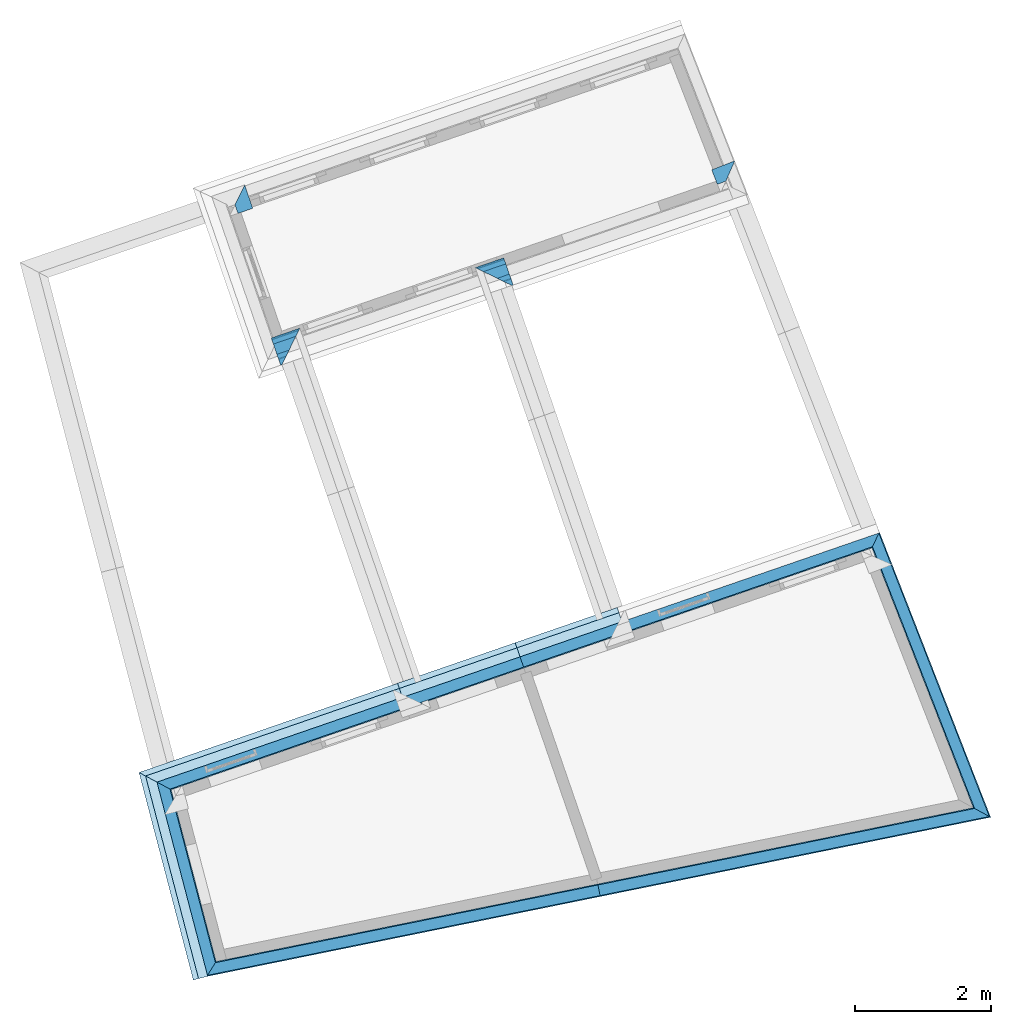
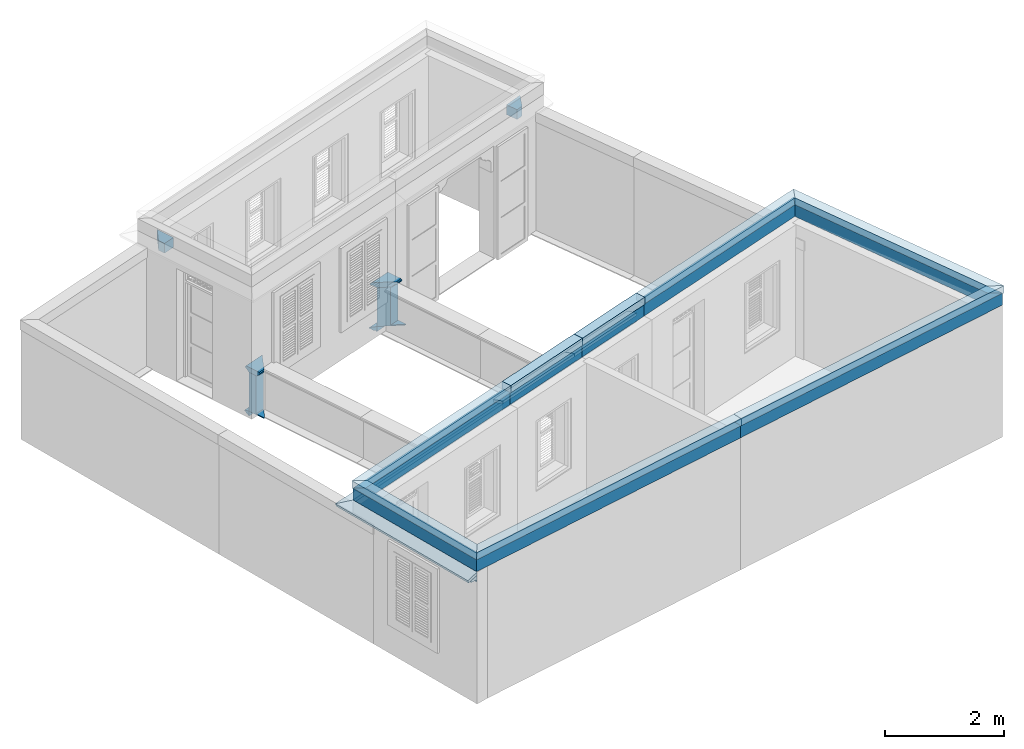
# One storey, part 15 of 16: 24 roofs, 8 walls.
"""IFC4 building model written with IfcOpenShell, lengths in metres."""

from ifc_helpers import new_model, si_unit, frame, origin_with_axes, place, context, subcontext, project, spatial, polyline, outline, extrude, clip, halfspace, material_profile, profile_set, profile_usage, type_object, element, save


model = new_model("IFC4")

# Units and contexts
model_context = context("Model", 3, world=origin_with_axes())
body_context = subcontext(model_context, "Body", "Model", "MODEL_VIEW")
ifc_project = project(units=[si_unit("PLANEANGLEUNIT", "RADIAN"), si_unit("MASSUNIT", "GRAM", prefix="KILO"), si_unit("FORCEUNIT", "NEWTON", prefix="KILO"), si_unit("LENGTHUNIT", "METRE"), si_unit("AREAUNIT", "SQUARE_METRE"), si_unit("VOLUMEUNIT", "CUBIC_METRE")], contexts=[model_context, model_context])

# Site, building, storey
site_placement = place(None, origin_with_axes())
site = spatial("IfcSite", under=ifc_project, at=site_placement, Name="Site plot-8", CompositionType="ELEMENT")
building_placement = place(None, origin_with_axes())
building = spatial("IfcBuilding", under=site, at=building_placement, Name="Building plot-8", CompositionType="ELEMENT")
storey_placement = place(None, frame((0.0, 0.0, 3.0), z_axis=(0.0, 0.0, 1.0), x_axis=(1.0, 0.0, 0.0)))
storey = spatial("IfcBuildingStorey", under=building, at=storey_placement, Name="plot-8 1", CompositionType="ELEMENT", Elevation=3.0)

# Walls
ifc_material_profile_1 = material_profile(None, outline(polyline([(0.265, 2.245), (0.265, 2.445), (0.035, 2.445), (0.035, 2.245), (0.265, 2.245)])))
ifc_profile_set_1 = profile_set([ifc_material_profile_1])
ifc_profile_usage_1 = profile_usage(ifc_profile_set_1)
wall_type_1 = type_object("IfcWallType", Name="parapet street_1", PredefinedType="PARAPET", material=ifc_profile_set_1)
wall_1_placement = place(storey_placement, frame((-12.5891238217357, 23.4297082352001, 0.0), z_axis=(0.326112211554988, -0.945331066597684, 0.0), x_axis=(0.945331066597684, 0.326112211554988, 0.0)))
element("IfcWall", 1, at=wall_1_placement, inside=storey, type_object=wall_type_1, material=ifc_profile_usage_1, Name="parapet street_1", context=body_context, shape_type="Clipping", body=[
    clip(clip(extrude(outline(polyline([(0.265, 2.245), (0.265, 2.445), (0.035, 2.445), (0.035, 2.245), (0.265, 2.245)])), origin_with_axes(), (0.0, 0.0, 1.0), 2.1), halfspace(frame((0.0, 0.0, 1.1), z_axis=(-5.0532154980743e-16, 0.0, -1.0), x_axis=(0.0, 1.0, 0.0)), True)), halfspace(frame((0.0, 0.0, 1.0), z_axis=(-0.707106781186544, 0.0, -0.707106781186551), x_axis=(0.0, 1.0, 0.0)), False)),
])
ifc_material_profile_2 = material_profile(None, outline(polyline([(0.265, 2.245), (0.265, 2.445), (0.035, 2.445), (0.035, 2.245), (0.265, 2.245)])))
ifc_profile_set_2 = profile_set([ifc_material_profile_2])
ifc_profile_usage_2 = profile_usage(ifc_profile_set_2)
wall_type_2 = type_object("IfcWallType", Name="parapet party_1", PredefinedType="PARAPET", material=ifc_profile_set_2)
wall_2_placement = place(storey_placement, frame((-6.04906734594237, 22.4333467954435, 0.0), z_axis=(0.931656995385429, 0.363339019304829, 0.0), x_axis=(-0.363339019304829, 0.931656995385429, 0.0)))
element("IfcWall", 2, at=wall_2_placement, inside=storey, type_object=wall_type_2, material=ifc_profile_usage_2, Name="parapet party_1", context=body_context, shape_type="Clipping", body=[
    clip(clip(extrude(outline(polyline([(0.265, 2.245), (0.265, 2.445), (0.035, 2.445), (0.035, 2.245), (0.265, 2.245)])), origin_with_axes(), (0.0, 0.0, 1.0), 2.1), halfspace(frame((0.0, 0.0, 1.1), z_axis=(0.707106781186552, 0.0, -0.707106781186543), x_axis=(0.0, 1.0, 0.0)), True)), halfspace(frame((0.0, 0.0, 1.0), z_axis=(-6.12323399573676e-17, 0.0, -1.0), x_axis=(0.0, 1.0, 0.0)), False)),
])
ifc_material_profile_3 = material_profile(None, outline(polyline([(0.25, 0.0), (0.25, 0.795), (0.09, 0.795), (0.09, 0.02), (-0.08, 0.02), (-0.08, 0.0), (0.25, 0.0)])))
ifc_profile_set_3 = profile_set([ifc_material_profile_3])
ifc_profile_usage_3 = profile_usage(ifc_profile_set_3)
wall_type_3 = type_object("IfcWallType", Name="parapet internal_0", PredefinedType="PARAPET", material=ifc_profile_set_3)
wall_3_placement = place(storey_placement, frame((-12.5394250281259, 19.9125697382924, 0.0), z_axis=(0.945331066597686, 0.326112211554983, 0.0), x_axis=(-0.326112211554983, 0.945331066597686, 0.0)))
element("IfcWall", 3, at=wall_3_placement, inside=storey, type_object=wall_type_3, material=ifc_profile_usage_3, Name="parapet internal_0", context=body_context, shape_type="Clipping", body=[
    clip(clip(extrude(outline(polyline([(0.25, 0.0), (0.25, 0.795), (0.09, 0.795), (0.09, 0.02), (-0.08, 0.02), (-0.08, 0.0), (0.25, 0.0)])), origin_with_axes(), (0.0, 0.0, 1.0), 2.1), halfspace(frame((0.0, 0.0, 1.1), z_axis=(0.707106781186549, 0.0, -0.707106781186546), x_axis=(0.0, 1.0, 0.0)), True)), halfspace(frame((0.0, 0.0, 1.0), z_axis=(-5.0532154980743e-16, 0.0, -1.0), x_axis=(0.0, 1.0, 0.0)), False)),
])
ifc_material_profile_4 = material_profile(None, outline(polyline([(0.265, 0.795), (0.268, 0.807), (0.274, 0.816), (0.283, 0.822), (0.295, 0.825), (0.295, 0.84), (0.305, 0.84), (0.317, 0.842), (0.326, 0.849), (0.333, 0.858), (0.335, 0.87), (0.333, 0.882), (0.326, 0.891), (0.317, 0.898), (0.305, 0.9), (0.035, 0.9), (0.023, 0.898), (0.014, 0.891), (0.007, 0.882), (0.005, 0.87), (0.007, 0.858), (0.014, 0.849), (0.023, 0.842), (0.035, 0.84), (0.045, 0.84), (0.045, 0.825), (0.057, 0.822), (0.066, 0.816), (0.072, 0.807), (0.075, 0.795), (0.265, 0.795)])))
ifc_profile_set_4 = profile_set([ifc_material_profile_4])
ifc_profile_usage_4 = profile_usage(ifc_profile_set_4)
wall_type_4 = type_object("IfcWallType", Name="parapet internal_1", PredefinedType="PARAPET", material=ifc_profile_set_4)
wall_4_placement = place(storey_placement, frame((-12.5394250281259, 19.9125697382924, 0.0), z_axis=(0.945331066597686, 0.326112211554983, 0.0), x_axis=(-0.326112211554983, 0.945331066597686, 0.0)))
element("IfcWall", 4, at=wall_4_placement, inside=storey, type_object=wall_type_4, material=ifc_profile_usage_4, Name="parapet internal_1", context=body_context, shape_type="Clipping", body=[
    clip(clip(extrude(outline(polyline([(0.265, 0.795), (0.268, 0.807), (0.274, 0.816), (0.283, 0.822), (0.295, 0.825), (0.295, 0.84), (0.305, 0.84), (0.317, 0.842), (0.326, 0.849), (0.333, 0.858), (0.335, 0.87), (0.333, 0.882), (0.326, 0.891), (0.317, 0.898), (0.305, 0.9), (0.035, 0.9), (0.023, 0.898), (0.014, 0.891), (0.007, 0.882), (0.005, 0.87), (0.007, 0.858), (0.014, 0.849), (0.023, 0.842), (0.035, 0.84), (0.045, 0.84), (0.045, 0.825), (0.057, 0.822), (0.066, 0.816), (0.072, 0.807), (0.075, 0.795), (0.265, 0.795)])), origin_with_axes(), (0.0, 0.0, 1.0), 2.1), halfspace(frame((0.0, 0.0, 1.1), z_axis=(0.707106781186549, 0.0, -0.707106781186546), x_axis=(0.0, 1.0, 0.0)), True)), halfspace(frame((0.0, 0.0, 1.0), z_axis=(-5.0532154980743e-16, 0.0, -1.0), x_axis=(0.0, 1.0, 0.0)), False)),
])
ifc_material_profile_5 = material_profile(None, outline(polyline([(0.25, -0.1), (0.265, -0.1), (0.265, -0.085), (0.278, -0.084), (0.289, -0.081), (0.301, -0.074), (0.309, -0.065), (0.315, -0.055), (0.324, -0.044), (0.334, -0.038), (0.345, -0.035), (0.345, -0.015), (0.25, 0.0), (0.25, -0.1)])))
ifc_profile_set_5 = profile_set([ifc_material_profile_5])
ifc_profile_usage_5 = profile_usage(ifc_profile_set_5)
wall_type_5 = type_object("IfcWallType", Name="parapet internal_2", PredefinedType="PARAPET", material=ifc_profile_set_5)
wall_5_placement = place(storey_placement, frame((-12.5394250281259, 19.9125697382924, 0.0), z_axis=(0.945331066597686, 0.326112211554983, 0.0), x_axis=(-0.326112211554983, 0.945331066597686, 0.0)))
element("IfcWall", 5, at=wall_5_placement, inside=storey, type_object=wall_type_5, material=ifc_profile_usage_5, Name="parapet internal_2", context=body_context, shape_type="Clipping", body=[
    clip(clip(extrude(outline(polyline([(0.25, -0.1), (0.265, -0.1), (0.265, -0.085), (0.278, -0.084), (0.289, -0.081), (0.301, -0.074), (0.309, -0.065), (0.315, -0.055), (0.324, -0.044), (0.334, -0.038), (0.345, -0.035), (0.345, -0.015), (0.25, 0.0), (0.25, -0.1)])), origin_with_axes(), (0.0, 0.0, 1.0), 2.1), halfspace(frame((0.0, 0.0, 1.1), z_axis=(0.707106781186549, 0.0, -0.707106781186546), x_axis=(0.0, 1.0, 0.0)), True)), halfspace(frame((0.0, 0.0, 1.0), z_axis=(-5.0532154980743e-16, 0.0, -1.0), x_axis=(0.0, 1.0, 0.0)), False)),
])
ifc_material_profile_6 = material_profile(None, outline(polyline([(0.25, 0.0), (0.25, 0.795), (0.09, 0.795), (0.09, 0.02), (-0.08, 0.02), (-0.08, 0.0), (0.25, 0.0)])))
ifc_profile_set_6 = profile_set([ifc_material_profile_6])
ifc_profile_usage_6 = profile_usage(ifc_profile_set_6)
wall_type_6 = type_object("IfcWallType", Name="parapet internal_0", PredefinedType="PARAPET", material=ifc_profile_set_6)
wall_6_placement = place(storey_placement, frame((-9.20704119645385, 21.0621469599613, 0.0), z_axis=(0.945331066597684, 0.326112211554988, 0.0), x_axis=(-0.326112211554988, 0.945331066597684, 0.0)))
element("IfcWall", 6, at=wall_6_placement, inside=storey, type_object=wall_type_6, material=ifc_profile_usage_6, Name="parapet internal_0", context=body_context, shape_type="Clipping", body=[
    clip(clip(extrude(outline(polyline([(0.25, 0.0), (0.25, 0.795), (0.09, 0.795), (0.09, 0.02), (-0.08, 0.02), (-0.08, 0.0), (0.25, 0.0)])), origin_with_axes(), (0.0, 0.0, 1.0), 2.1), halfspace(frame((0.0, 0.0, 1.1), z_axis=(-5.0532154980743e-16, 0.0, -1.0), x_axis=(0.0, 1.0, 0.0)), True)), halfspace(frame((0.0, 0.0, 1.0), z_axis=(-0.707106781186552, 0.0, -0.707106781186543), x_axis=(0.0, 1.0, 0.0)), False)),
])
ifc_material_profile_7 = material_profile(None, outline(polyline([(0.265, 0.795), (0.268, 0.807), (0.274, 0.816), (0.283, 0.822), (0.295, 0.825), (0.295, 0.84), (0.305, 0.84), (0.317, 0.842), (0.326, 0.849), (0.333, 0.858), (0.335, 0.87), (0.333, 0.882), (0.326, 0.891), (0.317, 0.898), (0.305, 0.9), (0.035, 0.9), (0.023, 0.898), (0.014, 0.891), (0.007, 0.882), (0.005, 0.87), (0.007, 0.858), (0.014, 0.849), (0.023, 0.842), (0.035, 0.84), (0.045, 0.84), (0.045, 0.825), (0.057, 0.822), (0.066, 0.816), (0.072, 0.807), (0.075, 0.795), (0.265, 0.795)])))
ifc_profile_set_7 = profile_set([ifc_material_profile_7])
ifc_profile_usage_7 = profile_usage(ifc_profile_set_7)
wall_type_7 = type_object("IfcWallType", Name="parapet internal_1", PredefinedType="PARAPET", material=ifc_profile_set_7)
wall_7_placement = place(storey_placement, frame((-9.20704119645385, 21.0621469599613, 0.0), z_axis=(0.945331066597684, 0.326112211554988, 0.0), x_axis=(-0.326112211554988, 0.945331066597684, 0.0)))
element("IfcWall", 7, at=wall_7_placement, inside=storey, type_object=wall_type_7, material=ifc_profile_usage_7, Name="parapet internal_1", context=body_context, shape_type="Clipping", body=[
    clip(clip(extrude(outline(polyline([(0.265, 0.795), (0.268, 0.807), (0.274, 0.816), (0.283, 0.822), (0.295, 0.825), (0.295, 0.84), (0.305, 0.84), (0.317, 0.842), (0.326, 0.849), (0.333, 0.858), (0.335, 0.87), (0.333, 0.882), (0.326, 0.891), (0.317, 0.898), (0.305, 0.9), (0.035, 0.9), (0.023, 0.898), (0.014, 0.891), (0.007, 0.882), (0.005, 0.87), (0.007, 0.858), (0.014, 0.849), (0.023, 0.842), (0.035, 0.84), (0.045, 0.84), (0.045, 0.825), (0.057, 0.822), (0.066, 0.816), (0.072, 0.807), (0.075, 0.795), (0.265, 0.795)])), origin_with_axes(), (0.0, 0.0, 1.0), 2.1), halfspace(frame((0.0, 0.0, 1.1), z_axis=(-5.0532154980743e-16, 0.0, -1.0), x_axis=(0.0, 1.0, 0.0)), True)), halfspace(frame((0.0, 0.0, 1.0), z_axis=(-0.707106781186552, 0.0, -0.707106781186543), x_axis=(0.0, 1.0, 0.0)), False)),
])
ifc_material_profile_8 = material_profile(None, outline(polyline([(0.25, -0.1), (0.265, -0.1), (0.265, -0.085), (0.278, -0.084), (0.289, -0.081), (0.301, -0.074), (0.309, -0.065), (0.315, -0.055), (0.324, -0.044), (0.334, -0.038), (0.345, -0.035), (0.345, -0.015), (0.25, 0.0), (0.25, -0.1)])))
ifc_profile_set_8 = profile_set([ifc_material_profile_8])
ifc_profile_usage_8 = profile_usage(ifc_profile_set_8)
wall_type_8 = type_object("IfcWallType", Name="parapet internal_2", PredefinedType="PARAPET", material=ifc_profile_set_8)
wall_8_placement = place(storey_placement, frame((-9.20704119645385, 21.0621469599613, 0.0), z_axis=(0.945331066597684, 0.326112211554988, 0.0), x_axis=(-0.326112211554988, 0.945331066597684, 0.0)))
element("IfcWall", 8, at=wall_8_placement, inside=storey, type_object=wall_type_8, material=ifc_profile_usage_8, Name="parapet internal_2", context=body_context, shape_type="Clipping", body=[
    clip(clip(extrude(outline(polyline([(0.25, -0.1), (0.265, -0.1), (0.265, -0.085), (0.278, -0.084), (0.289, -0.081), (0.301, -0.074), (0.309, -0.065), (0.315, -0.055), (0.324, -0.044), (0.334, -0.038), (0.345, -0.035), (0.345, -0.015), (0.25, 0.0), (0.25, -0.1)])), origin_with_axes(), (0.0, 0.0, 1.0), 2.1), halfspace(frame((0.0, 0.0, 1.1), z_axis=(-5.0532154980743e-16, 0.0, -1.0), x_axis=(0.0, 1.0, 0.0)), True)), halfspace(frame((0.0, 0.0, 1.0), z_axis=(-0.707106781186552, 0.0, -0.707106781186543), x_axis=(0.0, 1.0, 0.0)), False)),
])

# Roofs
ifc_material_profile_9 = material_profile(None, outline(polyline([(0.25, 0.0), (0.25, 0.245), (0.09, 0.245), (0.09, 0.0), (0.25, 0.0)])))
ifc_profile_set_9 = profile_set([ifc_material_profile_9])
ifc_profile_usage_9 = profile_usage(ifc_profile_set_9)
roof_type_1 = type_object("IfcRoofType", Name="roofline_0", PredefinedType="FREEFORM", material=ifc_profile_set_9)
roof_1_placement = place(storey_placement, frame((-14.0365298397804, 13.5307549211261, 2.7), z_axis=(0.945331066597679, 0.326112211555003, 0.0), x_axis=(-0.326112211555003, 0.945331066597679, 0.0)))
element("IfcRoof", 9, at=roof_1_placement, inside=storey, type_object=roof_type_1, material=ifc_profile_usage_9, Name="roofline_0", context=body_context, shape_type="Clipping", body=[
    clip(clip(extrude(outline(polyline([(0.25, 0.0), (0.25, 0.245), (0.09, 0.245), (0.09, 0.0), (0.25, 0.0)])), origin_with_axes(), (0.0, 0.0, 1.0), 5.59644743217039), halfspace(frame((0.0, 0.0, 4.59644743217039), z_axis=(1.54818900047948e-14, 0.0, -1.0), x_axis=(0.0, 1.0, 0.0)), True)), halfspace(frame((0.0, 0.0, 1.0), z_axis=(-0.679593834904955, 0.0, -0.733588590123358), x_axis=(0.0, 1.0, 0.0)), False)),
])
ifc_profile_usage_10 = profile_usage(ifc_profile_set_9)
roof_2_placement = place(storey_placement, frame((-12.2115439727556, 10.4934918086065, 2.7), z_axis=(-0.253028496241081, 0.967458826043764, 0.0), x_axis=(-0.967458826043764, -0.253028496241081, 0.0)))
element("IfcRoof", 10, at=roof_2_placement, inside=storey, type_object=roof_type_1, material=ifc_profile_usage_10, Name="roofline_0", context=body_context, shape_type="Clipping", body=[
    clip(clip(extrude(outline(polyline([(0.25, 0.0), (0.25, 0.245), (0.09, 0.245), (0.09, 0.0), (0.25, 0.0)])), origin_with_axes(), (0.0, 0.0, 1.0), 4.47650487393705), halfspace(frame((0.0, 0.0, 3.47650487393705), z_axis=(0.679593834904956, 0.0, -0.733588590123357), x_axis=(0.0, 1.0, 0.0)), True)), halfspace(frame((0.0, 0.0, 1.0), z_axis=(-0.68724071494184, 0.0, -0.726429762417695), x_axis=(0.0, 1.0, 0.0)), False)),
])
ifc_profile_usage_11 = profile_usage(ifc_profile_set_9)
roof_3_placement = place(storey_placement, frame((-5.9292702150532, 12.7883114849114, 2.7), z_axis=(-0.979990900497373, -0.199042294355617, 0.0), x_axis=(0.199042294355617, -0.979990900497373, 0.0)))
element("IfcRoof", 11, at=roof_3_placement, inside=storey, type_object=roof_type_1, material=ifc_profile_usage_11, Name="roofline_0", context=body_context, shape_type="Clipping", body=[
    clip(clip(extrude(outline(polyline([(0.25, 0.0), (0.25, 0.245), (0.09, 0.245), (0.09, 0.0), (0.25, 0.0)])), origin_with_axes(), (0.0, 0.0, 1.0), 7.6687376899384), halfspace(frame((0.0, 0.0, 6.6687376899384), z_axis=(0.687240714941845, 0.0, -0.72642976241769), x_axis=(0.0, 1.0, 0.0)), True)), halfspace(frame((0.0, 0.0, 1.0), z_axis=(3.82856869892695e-16, 0.0, -1.0), x_axis=(0.0, 1.0, 0.0)), False)),
])
ifc_profile_usage_12 = profile_usage(ifc_profile_set_9)
roof_4_placement = place(storey_placement, frame((-0.480839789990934, 13.8949218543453, 2.7), z_axis=(-0.979990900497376, -0.199042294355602, 0.0), x_axis=(0.199042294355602, -0.979990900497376, 0.0)))
element("IfcRoof", 12, at=roof_4_placement, inside=storey, type_object=roof_type_1, material=ifc_profile_usage_12, Name="roofline_0", context=body_context, shape_type="Clipping", body=[
    clip(clip(extrude(outline(polyline([(0.25, 0.0), (0.25, 0.245), (0.09, 0.245), (0.09, 0.0), (0.25, 0.0)])), origin_with_axes(), (0.0, 0.0, 1.0), 7.55967450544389), halfspace(frame((0.0, 0.0, 6.55967450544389), z_axis=(-1.47161762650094e-14, 0.0, -1.0), x_axis=(0.0, 1.0, 0.0)), True)), halfspace(frame((0.0, 0.0, 1.0), z_axis=(-0.765058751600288, 0.0, -0.643960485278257), x_axis=(0.0, 1.0, 0.0)), False)),
])
ifc_profile_usage_13 = profile_usage(ifc_profile_set_9)
roof_5_placement = place(storey_placement, frame((-3.25866719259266, 18.3058082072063, 2.7), z_axis=(0.363339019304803, -0.931656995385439, 0.0), x_axis=(0.931656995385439, 0.363339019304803, 0.0)))
element("IfcRoof", 13, at=roof_5_placement, inside=storey, type_object=roof_type_1, material=ifc_profile_usage_13, Name="roofline_0", context=body_context, shape_type="Clipping", body=[
    clip(clip(extrude(outline(polyline([(0.25, 0.0), (0.25, 0.245), (0.09, 0.245), (0.09, 0.0), (0.25, 0.0)])), origin_with_axes(), (0.0, 0.0, 1.0), 5.94809642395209), halfspace(frame((0.0, 0.0, 4.94809642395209), z_axis=(0.765058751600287, 0.0, -0.643960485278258), x_axis=(0.0, 1.0, 0.0)), True)), halfspace(frame((0.0, 0.0, 1.0), z_axis=(-0.692946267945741, 0.0, -0.720989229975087), x_axis=(0.0, 1.0, 0.0)), False)),
])
ifc_profile_usage_14 = profile_usage(ifc_profile_set_9)
roof_6_placement = place(storey_placement, frame((-7.39884562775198, 15.8205663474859, 2.7), z_axis=(0.945331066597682, 0.326112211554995, 0.0), x_axis=(-0.326112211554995, 0.945331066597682, 0.0)))
element("IfcRoof", 14, at=roof_6_placement, inside=storey, type_object=roof_type_1, material=ifc_profile_usage_14, Name="roofline_0", context=body_context, shape_type="Clipping", body=[
    clip(clip(extrude(outline(polyline([(0.25, 0.0), (0.25, 0.245), (0.09, 0.245), (0.09, 0.0), (0.25, 0.0)])), origin_with_axes(), (0.0, 0.0, 1.0), 5.7639579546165), halfspace(frame((0.0, 0.0, 4.7639579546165), z_axis=(0.692946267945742, 0.0, -0.720989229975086), x_axis=(0.0, 1.0, 0.0)), True)), halfspace(frame((0.0, 0.0, 1.0), z_axis=(-6.12323399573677e-17, 0.0, -1.0), x_axis=(0.0, 1.0, 0.0)), False)),
])
ifc_profile_usage_15 = profile_usage(ifc_profile_set_9)
roof_7_placement = place(storey_placement, frame((-8.90281631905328, 15.3017394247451, 2.7), z_axis=(0.945331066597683, 0.32611221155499, 0.0), x_axis=(-0.32611221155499, 0.945331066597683, 0.0)))
element("IfcRoof", 15, at=roof_7_placement, inside=storey, type_object=roof_type_1, material=ifc_profile_usage_15, Name="roofline_0", context=body_context, shape_type="Clipping", body=[
    clip(clip(extrude(outline(polyline([(0.25, 0.0), (0.25, 0.245), (0.09, 0.245), (0.09, 0.0), (0.25, 0.0)])), origin_with_axes(), (0.0, 0.0, 1.0), 3.59094601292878), halfspace(frame((0.0, 0.0, 2.59094601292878), z_axis=(-5.39030285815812e-15, 0.0, -1.0), x_axis=(0.0, 1.0, 0.0)), True)), halfspace(frame((0.0, 0.0, 1.0), z_axis=(-9.49410759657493e-16, 0.0, -1.0), x_axis=(0.0, 1.0, 0.0)), False)),
])
ifc_profile_usage_16 = profile_usage(ifc_profile_set_9)
roof_8_placement = place(storey_placement, frame((-10.6366963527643, 14.7036003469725, 2.7), z_axis=(0.945331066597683, 0.326112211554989, 0.0), x_axis=(-0.326112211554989, 0.945331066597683, 0.0)))
element("IfcRoof", 16, at=roof_8_placement, inside=storey, type_object=roof_type_1, material=ifc_profile_usage_16, Name="roofline_0", context=body_context, shape_type="Clipping", body=[
    clip(clip(extrude(outline(polyline([(0.25, 0.0), (0.25, 0.245), (0.09, 0.245), (0.09, 0.0), (0.25, 0.0)])), origin_with_axes(), (0.0, 0.0, 1.0), 3.83415111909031), halfspace(frame((0.0, 0.0, 2.83415111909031), z_axis=(-1.39349996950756e-15, 0.0, -1.0), x_axis=(0.0, 1.0, 0.0)), True)), halfspace(frame((0.0, 0.0, 1.0), z_axis=(8.26946079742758e-16, 0.0, -1.0), x_axis=(0.0, 1.0, 0.0)), False)),
])
ifc_material_profile_10 = material_profile(None, outline(polyline([(0.265, 0.245), (0.265, 0.395), (0.075, 0.395), (0.075, 0.245), (0.265, 0.245)])))
ifc_profile_set_10 = profile_set([ifc_material_profile_10])
ifc_profile_usage_17 = profile_usage(ifc_profile_set_10)
roof_type_2 = type_object("IfcRoofType", Name="roofline_1", PredefinedType="FREEFORM", material=ifc_profile_set_10)
roof_9_placement = place(storey_placement, frame((-14.0365298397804, 13.5307549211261, 2.7), z_axis=(0.945331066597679, 0.326112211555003, 0.0), x_axis=(-0.326112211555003, 0.945331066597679, 0.0)))
element("IfcRoof", 17, at=roof_9_placement, inside=storey, type_object=roof_type_2, material=ifc_profile_usage_17, Name="roofline_1", context=body_context, shape_type="Clipping", body=[
    clip(clip(extrude(outline(polyline([(0.265, 0.245), (0.265, 0.395), (0.075, 0.395), (0.075, 0.245), (0.265, 0.245)])), origin_with_axes(), (0.0, 0.0, 1.0), 5.59644743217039), halfspace(frame((0.0, 0.0, 4.59644743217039), z_axis=(1.54818900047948e-14, 0.0, -1.0), x_axis=(0.0, 1.0, 0.0)), True)), halfspace(frame((0.0, 0.0, 1.0), z_axis=(-0.679593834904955, 0.0, -0.733588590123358), x_axis=(0.0, 1.0, 0.0)), False)),
])
ifc_profile_usage_18 = profile_usage(ifc_profile_set_10)
roof_10_placement = place(storey_placement, frame((-12.2115439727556, 10.4934918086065, 2.7), z_axis=(-0.253028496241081, 0.967458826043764, 0.0), x_axis=(-0.967458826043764, -0.253028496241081, 0.0)))
element("IfcRoof", 18, at=roof_10_placement, inside=storey, type_object=roof_type_2, material=ifc_profile_usage_18, Name="roofline_1", context=body_context, shape_type="Clipping", body=[
    clip(clip(extrude(outline(polyline([(0.265, 0.245), (0.265, 0.395), (0.075, 0.395), (0.075, 0.245), (0.265, 0.245)])), origin_with_axes(), (0.0, 0.0, 1.0), 4.47650487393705), halfspace(frame((0.0, 0.0, 3.47650487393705), z_axis=(0.679593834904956, 0.0, -0.733588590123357), x_axis=(0.0, 1.0, 0.0)), True)), halfspace(frame((0.0, 0.0, 1.0), z_axis=(-0.68724071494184, 0.0, -0.726429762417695), x_axis=(0.0, 1.0, 0.0)), False)),
])
ifc_profile_usage_19 = profile_usage(ifc_profile_set_10)
roof_11_placement = place(storey_placement, frame((-5.9292702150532, 12.7883114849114, 2.7), z_axis=(-0.979990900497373, -0.199042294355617, 0.0), x_axis=(0.199042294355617, -0.979990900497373, 0.0)))
element("IfcRoof", 19, at=roof_11_placement, inside=storey, type_object=roof_type_2, material=ifc_profile_usage_19, Name="roofline_1", context=body_context, shape_type="Clipping", body=[
    clip(clip(extrude(outline(polyline([(0.265, 0.245), (0.265, 0.395), (0.075, 0.395), (0.075, 0.245), (0.265, 0.245)])), origin_with_axes(), (0.0, 0.0, 1.0), 7.6687376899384), halfspace(frame((0.0, 0.0, 6.6687376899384), z_axis=(0.687240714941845, 0.0, -0.72642976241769), x_axis=(0.0, 1.0, 0.0)), True)), halfspace(frame((0.0, 0.0, 1.0), z_axis=(3.82856869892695e-16, 0.0, -1.0), x_axis=(0.0, 1.0, 0.0)), False)),
])
ifc_profile_usage_20 = profile_usage(ifc_profile_set_10)
roof_12_placement = place(storey_placement, frame((-0.480839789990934, 13.8949218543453, 2.7), z_axis=(-0.979990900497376, -0.199042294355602, 0.0), x_axis=(0.199042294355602, -0.979990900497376, 0.0)))
element("IfcRoof", 20, at=roof_12_placement, inside=storey, type_object=roof_type_2, material=ifc_profile_usage_20, Name="roofline_1", context=body_context, shape_type="Clipping", body=[
    clip(clip(extrude(outline(polyline([(0.265, 0.245), (0.265, 0.395), (0.075, 0.395), (0.075, 0.245), (0.265, 0.245)])), origin_with_axes(), (0.0, 0.0, 1.0), 7.55967450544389), halfspace(frame((0.0, 0.0, 6.55967450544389), z_axis=(-1.47161762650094e-14, 0.0, -1.0), x_axis=(0.0, 1.0, 0.0)), True)), halfspace(frame((0.0, 0.0, 1.0), z_axis=(-0.765058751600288, 0.0, -0.643960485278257), x_axis=(0.0, 1.0, 0.0)), False)),
])
ifc_profile_usage_21 = profile_usage(ifc_profile_set_10)
roof_13_placement = place(storey_placement, frame((-3.25866719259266, 18.3058082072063, 2.7), z_axis=(0.363339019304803, -0.931656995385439, 0.0), x_axis=(0.931656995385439, 0.363339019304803, 0.0)))
element("IfcRoof", 21, at=roof_13_placement, inside=storey, type_object=roof_type_2, material=ifc_profile_usage_21, Name="roofline_1", context=body_context, shape_type="Clipping", body=[
    clip(clip(extrude(outline(polyline([(0.265, 0.245), (0.265, 0.395), (0.075, 0.395), (0.075, 0.245), (0.265, 0.245)])), origin_with_axes(), (0.0, 0.0, 1.0), 5.94809642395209), halfspace(frame((0.0, 0.0, 4.94809642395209), z_axis=(0.765058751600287, 0.0, -0.643960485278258), x_axis=(0.0, 1.0, 0.0)), True)), halfspace(frame((0.0, 0.0, 1.0), z_axis=(-0.692946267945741, 0.0, -0.720989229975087), x_axis=(0.0, 1.0, 0.0)), False)),
])
ifc_profile_usage_22 = profile_usage(ifc_profile_set_10)
roof_14_placement = place(storey_placement, frame((-7.39884562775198, 15.8205663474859, 2.7), z_axis=(0.945331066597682, 0.326112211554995, 0.0), x_axis=(-0.326112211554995, 0.945331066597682, 0.0)))
element("IfcRoof", 22, at=roof_14_placement, inside=storey, type_object=roof_type_2, material=ifc_profile_usage_22, Name="roofline_1", context=body_context, shape_type="Clipping", body=[
    clip(clip(extrude(outline(polyline([(0.265, 0.245), (0.265, 0.395), (0.075, 0.395), (0.075, 0.245), (0.265, 0.245)])), origin_with_axes(), (0.0, 0.0, 1.0), 5.7639579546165), halfspace(frame((0.0, 0.0, 4.7639579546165), z_axis=(0.692946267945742, 0.0, -0.720989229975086), x_axis=(0.0, 1.0, 0.0)), True)), halfspace(frame((0.0, 0.0, 1.0), z_axis=(-6.12323399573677e-17, 0.0, -1.0), x_axis=(0.0, 1.0, 0.0)), False)),
])
ifc_profile_usage_23 = profile_usage(ifc_profile_set_10)
roof_15_placement = place(storey_placement, frame((-8.90281631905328, 15.3017394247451, 2.7), z_axis=(0.945331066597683, 0.32611221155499, 0.0), x_axis=(-0.32611221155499, 0.945331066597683, 0.0)))
element("IfcRoof", 23, at=roof_15_placement, inside=storey, type_object=roof_type_2, material=ifc_profile_usage_23, Name="roofline_1", context=body_context, shape_type="Clipping", body=[
    clip(clip(extrude(outline(polyline([(0.265, 0.245), (0.265, 0.395), (0.075, 0.395), (0.075, 0.245), (0.265, 0.245)])), origin_with_axes(), (0.0, 0.0, 1.0), 3.59094601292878), halfspace(frame((0.0, 0.0, 2.59094601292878), z_axis=(-5.39030285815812e-15, 0.0, -1.0), x_axis=(0.0, 1.0, 0.0)), True)), halfspace(frame((0.0, 0.0, 1.0), z_axis=(-9.49410759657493e-16, 0.0, -1.0), x_axis=(0.0, 1.0, 0.0)), False)),
])
ifc_profile_usage_24 = profile_usage(ifc_profile_set_10)
roof_16_placement = place(storey_placement, frame((-10.6366963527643, 14.7036003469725, 2.7), z_axis=(0.945331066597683, 0.326112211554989, 0.0), x_axis=(-0.326112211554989, 0.945331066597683, 0.0)))
element("IfcRoof", 24, at=roof_16_placement, inside=storey, type_object=roof_type_2, material=ifc_profile_usage_24, Name="roofline_1", context=body_context, shape_type="Clipping", body=[
    clip(clip(extrude(outline(polyline([(0.265, 0.245), (0.265, 0.395), (0.075, 0.395), (0.075, 0.245), (0.265, 0.245)])), origin_with_axes(), (0.0, 0.0, 1.0), 3.83415111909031), halfspace(frame((0.0, 0.0, 2.83415111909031), z_axis=(-1.39349996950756e-15, 0.0, -1.0), x_axis=(0.0, 1.0, 0.0)), True)), halfspace(frame((0.0, 0.0, 1.0), z_axis=(8.26946079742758e-16, 0.0, -1.0), x_axis=(0.0, 1.0, 0.0)), False)),
])
ifc_material_profile_11 = material_profile(None, outline(polyline([(0.25, -0.19), (0.275, -0.19), (0.275, -0.15), (0.39, -0.15), (0.39, -0.107509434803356), (0.25, -0.0629639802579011), (0.25, -0.19)])))
ifc_profile_set_11 = profile_set([ifc_material_profile_11])
ifc_profile_usage_25 = profile_usage(ifc_profile_set_11)
roof_type_3 = type_object("IfcRoofType", Name="eaves_0", PredefinedType="FREEFORM", material=ifc_profile_set_11)
roof_17_placement = place(storey_placement, frame((-8.90281631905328, 15.3017394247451, 2.7), z_axis=(0.945331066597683, 0.32611221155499, 0.0), x_axis=(-0.32611221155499, 0.945331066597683, 0.0)))
element("IfcRoof", 25, at=roof_17_placement, inside=storey, type_object=roof_type_3, material=ifc_profile_usage_25, Name="eaves_0", context=body_context, shape_type="Clipping", body=[
    clip(clip(extrude(outline(polyline([(0.25, -0.19), (0.275, -0.19), (0.275, -0.15), (0.39, -0.15), (0.39, -0.107509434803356), (0.25, -0.0629639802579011), (0.25, -0.19)])), origin_with_axes(), (0.0, 0.0, 1.0), 3.59094601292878), halfspace(frame((0.0, 0.0, 2.59094601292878), z_axis=(-5.39030285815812e-15, 0.0, -1.0), x_axis=(0.0, 1.0, 0.0)), True)), halfspace(frame((0.0, 0.0, 1.0), z_axis=(-9.49410759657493e-16, 0.0, -1.0), x_axis=(0.0, 1.0, 0.0)), False)),
])
ifc_profile_usage_26 = profile_usage(ifc_profile_set_11)
roof_18_placement = place(storey_placement, frame((-10.6366963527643, 14.7036003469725, 2.7), z_axis=(0.945331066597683, 0.326112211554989, 0.0), x_axis=(-0.326112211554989, 0.945331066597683, 0.0)))
element("IfcRoof", 26, at=roof_18_placement, inside=storey, type_object=roof_type_3, material=ifc_profile_usage_26, Name="eaves_0", context=body_context, shape_type="Clipping", body=[
    clip(clip(extrude(outline(polyline([(0.25, -0.19), (0.275, -0.19), (0.275, -0.15), (0.39, -0.15), (0.39, -0.107509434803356), (0.25, -0.0629639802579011), (0.25, -0.19)])), origin_with_axes(), (0.0, 0.0, 1.0), 3.83415111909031), halfspace(frame((0.0, 0.0, 2.83415111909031), z_axis=(-1.39349996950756e-15, 0.0, -1.0), x_axis=(0.0, 1.0, 0.0)), True)), halfspace(frame((0.0, 0.0, 1.0), z_axis=(8.26946079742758e-16, 0.0, -1.0), x_axis=(0.0, 1.0, 0.0)), False)),
])
ifc_profile_usage_27 = profile_usage(ifc_profile_set_11)
roof_19_placement = place(storey_placement, frame((-14.0365298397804, 13.5307549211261, 2.7), z_axis=(0.945331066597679, 0.326112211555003, 0.0), x_axis=(-0.326112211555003, 0.945331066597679, 0.0)))
element("IfcRoof", 27, at=roof_19_placement, inside=storey, type_object=roof_type_3, material=ifc_profile_usage_27, Name="eaves_0", context=body_context, shape_type="Clipping", body=[
    clip(clip(extrude(outline(polyline([(0.25, -0.19), (0.275, -0.19), (0.275, -0.15), (0.39, -0.15), (0.39, -0.107509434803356), (0.25, -0.0629639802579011), (0.25, -0.19)])), origin_with_axes(), (0.0, 0.0, 1.0), 5.59644743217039), halfspace(frame((0.0, 0.0, 4.59644743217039), z_axis=(1.54818900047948e-14, 0.0, -1.0), x_axis=(0.0, 1.0, 0.0)), True)), halfspace(frame((0.0, 0.0, 1.0), z_axis=(-0.679593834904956, 0.0, -0.733588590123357), x_axis=(0.0, 1.0, 0.0)), False)),
])
ifc_profile_usage_28 = profile_usage(ifc_profile_set_11)
roof_20_placement = place(storey_placement, frame((-12.1482868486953, 10.2516271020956, 2.7), z_axis=(-0.253028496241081, 0.967458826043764, 0.0), x_axis=(-0.967458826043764, -0.253028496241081, 0.0)))
element("IfcRoof", 28, at=roof_20_placement, inside=storey, type_object=roof_type_3, material=ifc_profile_usage_28, Name="eaves_0", context=body_context, shape_type="Clipping", body=[
    clip(clip(extrude(outline(polyline([(0.25, -0.19), (0.275, -0.19), (0.275, -0.15), (0.39, -0.15), (0.39, -0.107509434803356), (0.25, -0.0629639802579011), (0.25, -0.19)])), origin_with_axes(), (0.0, 0.0, 1.0), 4.72650487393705), halfspace(frame((0.0, 0.0, 3.72650487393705), z_axis=(0.679593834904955, 0.0, -0.733588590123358), x_axis=(0.0, 1.0, 0.0)), True)), halfspace(frame((0.0, 0.0, 1.0), z_axis=(1.60812264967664e-16, 0.0, -1.0), x_axis=(0.0, 1.0, 0.0)), False)),
])
ifc_material_profile_12 = material_profile(None, outline(polyline([(0.25, -0.0629639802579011), (0.451807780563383, -0.127175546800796), (0.47, -0.07), (0.25, 0.0), (0.25, -0.0629639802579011)])))
ifc_profile_set_12 = profile_set([ifc_material_profile_12])
ifc_profile_usage_29 = profile_usage(ifc_profile_set_12)
roof_type_4 = type_object("IfcRoofType", Name="eaves_1", PredefinedType="FREEFORM", material=ifc_profile_set_12)
roof_21_placement = place(storey_placement, frame((-8.90281631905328, 15.3017394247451, 2.7), z_axis=(0.945331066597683, 0.32611221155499, 0.0), x_axis=(-0.32611221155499, 0.945331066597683, 0.0)))
element("IfcRoof", 29, at=roof_21_placement, inside=storey, type_object=roof_type_4, material=ifc_profile_usage_29, Name="eaves_1", context=body_context, shape_type="Clipping", body=[
    clip(clip(extrude(outline(polyline([(0.25, -0.0629639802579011), (0.451807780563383, -0.127175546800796), (0.47, -0.07), (0.25, 0.0), (0.25, -0.0629639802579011)])), origin_with_axes(), (0.0, 0.0, 1.0), 3.59094601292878), halfspace(frame((0.0, 0.0, 2.59094601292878), z_axis=(-5.39030285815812e-15, 0.0, -1.0), x_axis=(0.0, 1.0, 0.0)), True)), halfspace(frame((0.0, 0.0, 1.0), z_axis=(-9.49410759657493e-16, 0.0, -1.0), x_axis=(0.0, 1.0, 0.0)), False)),
])
ifc_profile_usage_30 = profile_usage(ifc_profile_set_12)
roof_22_placement = place(storey_placement, frame((-10.6366963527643, 14.7036003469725, 2.7), z_axis=(0.945331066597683, 0.326112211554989, 0.0), x_axis=(-0.326112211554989, 0.945331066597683, 0.0)))
element("IfcRoof", 30, at=roof_22_placement, inside=storey, type_object=roof_type_4, material=ifc_profile_usage_30, Name="eaves_1", context=body_context, shape_type="Clipping", body=[
    clip(clip(extrude(outline(polyline([(0.25, -0.0629639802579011), (0.451807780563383, -0.127175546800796), (0.47, -0.07), (0.25, 0.0), (0.25, -0.0629639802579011)])), origin_with_axes(), (0.0, 0.0, 1.0), 3.83415111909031), halfspace(frame((0.0, 0.0, 2.83415111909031), z_axis=(-1.39349996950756e-15, 0.0, -1.0), x_axis=(0.0, 1.0, 0.0)), True)), halfspace(frame((0.0, 0.0, 1.0), z_axis=(8.26946079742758e-16, 0.0, -1.0), x_axis=(0.0, 1.0, 0.0)), False)),
])
ifc_profile_usage_31 = profile_usage(ifc_profile_set_12)
roof_23_placement = place(storey_placement, frame((-14.0365298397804, 13.5307549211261, 2.7), z_axis=(0.945331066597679, 0.326112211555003, 0.0), x_axis=(-0.326112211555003, 0.945331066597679, 0.0)))
element("IfcRoof", 31, at=roof_23_placement, inside=storey, type_object=roof_type_4, material=ifc_profile_usage_31, Name="eaves_1", context=body_context, shape_type="Clipping", body=[
    clip(clip(extrude(outline(polyline([(0.25, -0.0629639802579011), (0.451807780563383, -0.127175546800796), (0.47, -0.07), (0.25, 0.0), (0.25, -0.0629639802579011)])), origin_with_axes(), (0.0, 0.0, 1.0), 5.59644743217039), halfspace(frame((0.0, 0.0, 4.59644743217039), z_axis=(1.54818900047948e-14, 0.0, -1.0), x_axis=(0.0, 1.0, 0.0)), True)), halfspace(frame((0.0, 0.0, 1.0), z_axis=(-0.679593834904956, 0.0, -0.733588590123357), x_axis=(0.0, 1.0, 0.0)), False)),
])
ifc_profile_usage_32 = profile_usage(ifc_profile_set_12)
roof_24_placement = place(storey_placement, frame((-12.1482868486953, 10.2516271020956, 2.7), z_axis=(-0.253028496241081, 0.967458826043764, 0.0), x_axis=(-0.967458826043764, -0.253028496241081, 0.0)))
element("IfcRoof", 32, at=roof_24_placement, inside=storey, type_object=roof_type_4, material=ifc_profile_usage_32, Name="eaves_1", context=body_context, shape_type="Clipping", body=[
    clip(clip(extrude(outline(polyline([(0.25, -0.0629639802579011), (0.451807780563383, -0.127175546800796), (0.47, -0.07), (0.25, 0.0), (0.25, -0.0629639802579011)])), origin_with_axes(), (0.0, 0.0, 1.0), 4.72650487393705), halfspace(frame((0.0, 0.0, 3.72650487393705), z_axis=(0.679593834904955, 0.0, -0.733588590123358), x_axis=(0.0, 1.0, 0.0)), True)), halfspace(frame((0.0, 0.0, 1.0), z_axis=(1.60812264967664e-16, 0.0, -1.0), x_axis=(0.0, 1.0, 0.0)), False)),
])

save(model, "model.ifc")
